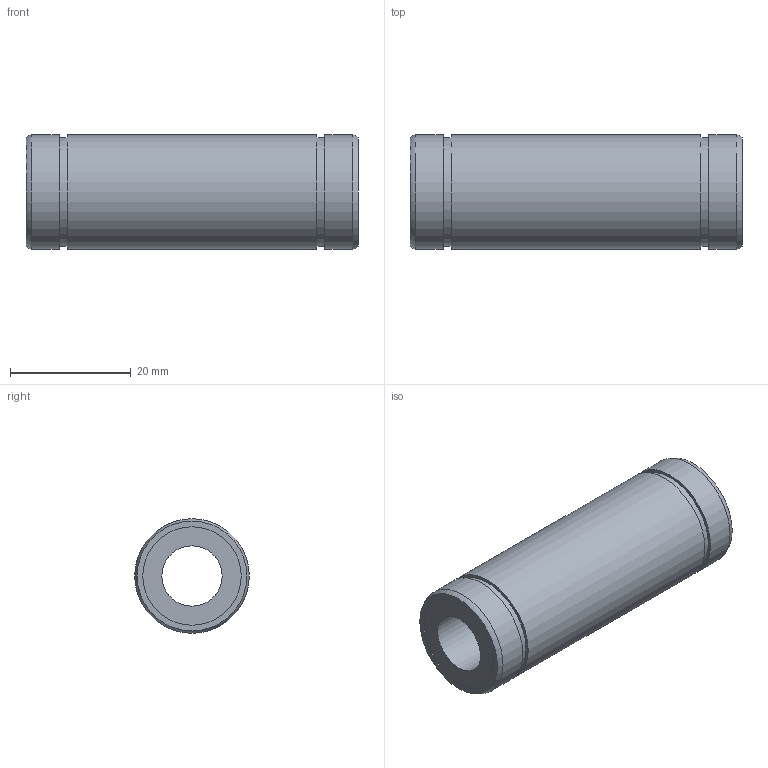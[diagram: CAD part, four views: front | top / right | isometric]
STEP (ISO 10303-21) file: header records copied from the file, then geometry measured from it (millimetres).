
FILE_DESCRIPTION((''),'2;1');
FILE_NAME('D:\製品 (図面)\カタログ用3D\リニアベアリング関連\STEP形式\LD\LD10.stp','2010-06-02T17:40:12',('Tsuchiya'),(''),'Autodesk Inventor 10','Autodesk Inventor 10','');
FILE_SCHEMA(('AUTOMOTIVE_DESIGN { 1 0 10303 214 1 1 1 1 }'));
Length unit declared in the file: millimetre
Products named in the file (1): LD10
Bounding box: 55 x 19 x 19 mm (x, y, z)
Volume: 11153.8 mm3; surface area: 5493.9 mm2
Topology: 1 solids, 1 shells, 18 faces, 28 edges, 18 vertices
Faces by surface type: plane 8, cylinder 8, torus 2
Full cylindrical faces by diameter (mm): 10 x1, 16.3 x2, 18 x2, 19 x3
Entity records: 391 total; most frequent: DIRECTION 74, CARTESIAN_POINT 55, AXIS2_PLACEMENT_3D 37, ORIENTED_EDGE 36, EDGE_LOOP 36, VERTEX_POINT 18, CIRCLE 18, EDGE_CURVE 18
